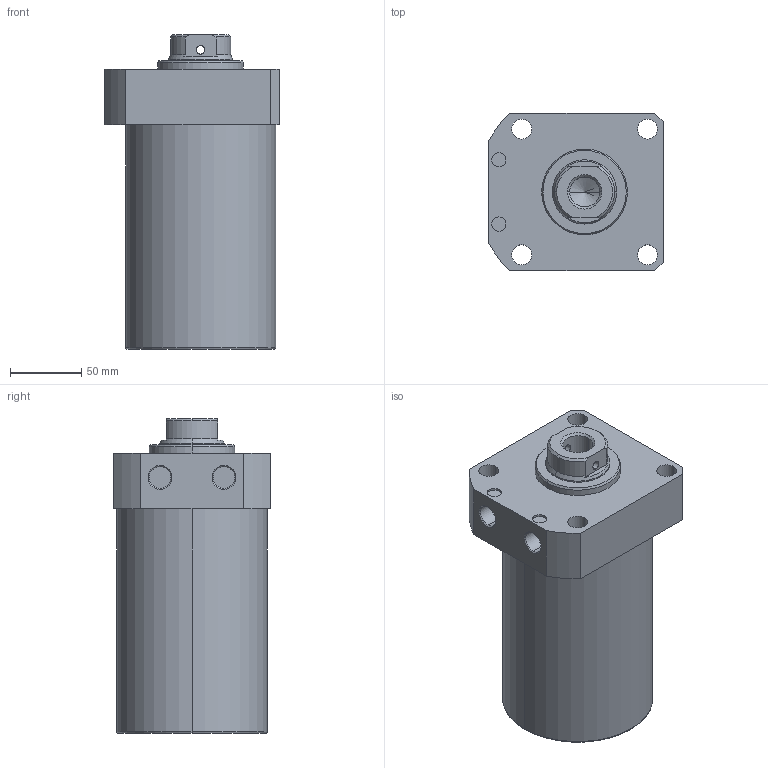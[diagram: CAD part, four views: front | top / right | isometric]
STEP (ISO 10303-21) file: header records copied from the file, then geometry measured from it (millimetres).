
FILE_DESCRIPTION (( 'STEP AP203' ), '1' );
FILE_NAME ('CLLR-105CB-110.STEP', '2019-12-18T07:30:02', ( '' ), ( '' ), 'SwSTEP 2.0', 'SolidWorks 2015', '' );
FILE_SCHEMA (( 'CONFIG_CONTROL_DESIGN' ));
Length unit declared in the file: millimetre
Products named in the file (1): CLLR-105CB-110
Bounding box: 122 x 110 x 220 mm (x, y, z)
Volume: 1856193.5 mm3; surface area: 110551.7 mm2
Topology: 1 solids, 1 shells, 69 faces, 165 edges, 104 vertices
Faces by surface type: cylinder 33, plane 19, cone 15, torus 2
Entity records: 2227 total; most frequent: CARTESIAN_POINT 481, DIRECTION 372, ORIENTED_EDGE 326, EDGE_CURVE 163, AXIS2_PLACEMENT_3D 151, VERTEX_POINT 104, EDGE_LOOP 89, CIRCLE 81
